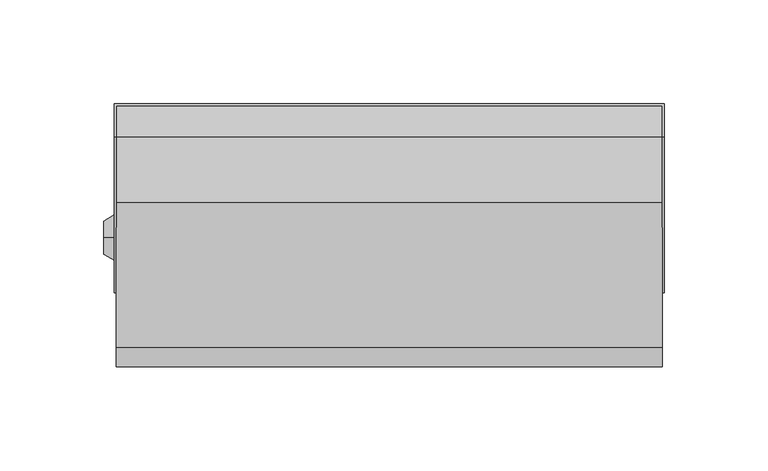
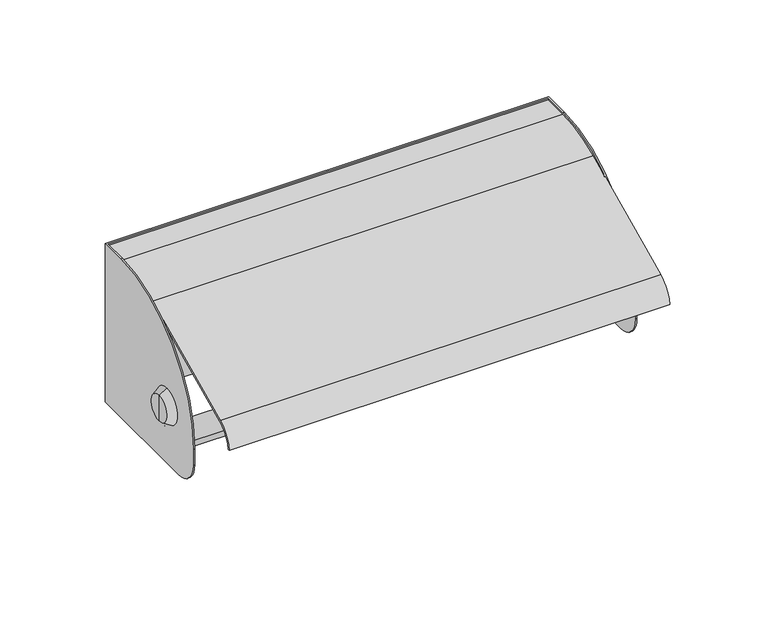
"""IFC4 building model written with IfcOpenShell, lengths in millimetres: proxy geometry, Toilet Roll Dispenser_Metlam_Double_Bar_Hooded : 265w x 91d x 100h (ML267)."""

from ifc_helpers import new_model, si_unit, frame, origin, place, context, project, spatial, polyline, circle_curve, source, transform, mapped, element, save
from ifc_brep_helpers import plane_surface, cylinder_surface, revolved_surface, advanced_brep


def specialty_equipment_0947d158(model_context):
    return source(origin(), model_context, "Body", "AdvancedBrep", [
        advanced_brep(
        [(-131.5, -91.0, 595.0), (-131.5, -91.0, 585.0), (-131.5, -76.0, 570.0), (-131.5, -1.0, 570.0), (-131.5, -1.0, 668.0), (-131.5, -16.0, 668.0), (-131.5, -47.085731, 661.0505664), (-131.5, -62.6525381, 653.7242769), (-131.5, -57.0, 585.0), (-131.5, -72.0, 585.0), (-131.5, -1.0, 670.0), (-131.5, -16.0, 670.0), (-131.5, -58.5560823, 656.7574276), (-131.5, -47.511563, 661.9553687), (-131.5, -16.0, 669.0), (-131.5, -1.0, 669.0), (-132.5, 0.0, 670.0), (-132.5, 0.0, 570.0), (-132.5, -76.0, 570.0), (-132.5, -91.0, 585.0), (-132.5, -91.0, 595.0), (-132.5, -16.0, 670.0), (131.5, -1.0, 670.0), (131.5, -16.0, 670.0), (132.5, -16.0, 670.0), (132.5, 0.0, 670.0), (132.5, 0.0, 570.0), (132.5, -76.0, 570.0), (131.5, -76.0, 570.0), (131.5, -1.0, 570.0), (131.5, -1.0, 669.0), (131.5, -1.0, 668.0), (132.5, -91.0, 595.0), (132.5, -91.0, 585.0), (131.5, -16.0, 669.0), (131.5, -47.511563, 661.9553687), (131.5, -58.5560823, 656.7574276), (131.5, -91.0, 585.0), (131.5, -91.0, 595.0), (131.5, -62.6525381, 653.7242769), (131.5, -47.085731, 661.0505664), (131.5, -16.0, 668.0), (131.5, -72.0, 585.0), (131.5, -57.0, 585.0), (131.5, -117.3969812, 629.0648209), (131.5, -126.6723192, 615.8182654), (131.5, -125.6764401, 615.7275749), (131.5, -116.9711493, 628.1600186), (-131.5, -116.9711493, 628.1600186), (-131.5, -125.6764401, 615.7275749), (-131.5, -126.6723192, 615.8182654), (-131.5, -117.3969812, 629.0648209)],
        [
            (0, 1),
            (1, 2, circle_curve(frame((-131.5, -76.0, 585.0), z_axis=(1.0, 0.0, 0.0), x_axis=(0.0, -1.0, 0.0)), 15.0)),
            (2, 3),
            (3, 4),
            (4, 5),
            (5, 6, circle_curve(frame((-131.5, -16.0, 595.0), z_axis=(1.0, 0.0, 0.0), x_axis=(0.0, 1.0, 0.0)), 73.0)),
            (6, 7),
            (7, 0, circle_curve(frame((-131.5, -16.0, 595.0), z_axis=(1.0, 0.0, 0.0), x_axis=(0.0, -1.0, 0.0)), 75.0)),
            (8, 9, circle_curve(frame((-131.5, -64.5, 585.0), z_axis=(-1.0, 0.0, 0.0), x_axis=(0.0, 1.0, 0.0)), 7.5)),
            (9, 8, circle_curve(frame((-131.5, -64.5, 585.0), z_axis=(-1.0, 0.0, 0.0), x_axis=(0.0, 1.0, 0.0)), 7.5)),
            (10, 11),
            (11, 12, circle_curve(frame((-131.5, -16.0, 595.0), z_axis=(1.0, 0.0, 0.0), x_axis=(0.0, -1.0, 0.0)), 75.0)),
            (12, 13),
            (13, 14, circle_curve(frame((-131.5, -16.0, 595.0), z_axis=(-1.0, 0.0, 0.0), x_axis=(0.0, 1.0, 0.0)), 74.0)),
            (14, 15),
            (15, 10),
            (16, 17),
            (17, 18),
            (18, 19, circle_curve(frame((-132.5, -76.0, 585.0), z_axis=(-1.0, 0.0, 0.0), x_axis=(0.0, -1.0, 0.0)), 15.0)),
            (19, 20),
            (20, 21, circle_curve(frame((-132.5, -16.0, 595.0), z_axis=(-1.0, 0.0, 0.0), x_axis=(0.0, -1.0, 0.0)), 75.0)),
            (21, 16),
            (21, 11),
            (10, 22),
            (22, 23),
            (23, 24),
            (24, 25),
            (25, 16),
            (25, 26),
            (26, 17),
            (2, 18),
            (26, 27),
            (27, 28),
            (28, 29),
            (29, 3),
            (1, 19),
            (0, 20),
            (7, 12, circle_curve(frame((-131.5, -16.0, 595.0), z_axis=(-1.0, 0.0, 0.0), x_axis=(0.0, -1.0, 0.0)), 75.0)),
            (15, 30),
            (30, 22),
            (29, 31),
            (31, 4),
            (24, 32, circle_curve(frame((132.5, -16.0, 595.0), z_axis=(1.0, 0.0, 0.0), x_axis=(0.0, -1.0, 0.0)), 75.0)),
            (32, 33),
            (33, 27, circle_curve(frame((132.5, -76.0, 585.0), z_axis=(1.0, 0.0, 0.0), x_axis=(0.0, -1.0, 0.0)), 15.0)),
            (30, 34),
            (34, 35, circle_curve(frame((131.5, -16.0, 595.0), z_axis=(1.0, 0.0, 0.0), x_axis=(0.0, 1.0, 0.0)), 74.0)),
            (35, 36),
            (36, 23, circle_curve(frame((131.5, -16.0, 595.0), z_axis=(-1.0, 0.0, 0.0), x_axis=(0.0, -1.0, 0.0)), 75.0)),
            (28, 37, circle_curve(frame((131.5, -76.0, 585.0), z_axis=(-1.0, 0.0, 0.0), x_axis=(0.0, -1.0, 0.0)), 15.0)),
            (37, 38),
            (38, 39, circle_curve(frame((131.5, -16.0, 595.0), z_axis=(-1.0, 0.0, 0.0), x_axis=(0.0, -1.0, 0.0)), 75.0)),
            (39, 40),
            (40, 41, circle_curve(frame((131.5, -16.0, 595.0), z_axis=(-1.0, 0.0, 0.0), x_axis=(0.0, 1.0, 0.0)), 73.0)),
            (41, 31),
            (42, 43, circle_curve(frame((131.5, -64.5, 585.0), z_axis=(1.0, 0.0, 0.0), x_axis=(0.0, 1.0, 0.0)), 7.5)),
            (43, 42, circle_curve(frame((131.5, -64.5, 585.0), z_axis=(1.0, 0.0, 0.0), x_axis=(0.0, 1.0, 0.0)), 7.5)),
            (33, 37),
            (32, 38),
            (36, 39, circle_curve(frame((131.5, -16.0, 595.0), z_axis=(1.0, 0.0, 0.0), x_axis=(0.0, -1.0, 0.0)), 75.0)),
            (42, 9),
            (8, 43),
            (44, 45, circle_curve(frame((131.5, -110.468195, 614.3426241), z_axis=(1.0, 0.0, 0.0), x_axis=(0.0, 1.0, 0.0)), 16.2711756)),
            (45, 46),
            (46, 47, circle_curve(frame((131.5, -110.468195, 614.3426241), z_axis=(-1.0, 0.0, 0.0), x_axis=(0.0, 1.0, 0.0)), 15.2711756)),
            (47, 39),
            (36, 44),
            (48, 49, circle_curve(frame((-131.5, -110.468195, 614.3426241), z_axis=(1.0, 0.0, 0.0), x_axis=(0.0, 1.0, 0.0)), 15.2711756)),
            (49, 50),
            (50, 51, circle_curve(frame((-131.5, -110.468195, 614.3426241), z_axis=(-1.0, 0.0, 0.0), x_axis=(0.0, 1.0, 0.0)), 16.2711756)),
            (51, 12),
            (7, 48),
            (14, 34),
            (13, 35),
            (51, 44),
            (50, 45),
            (49, 46),
            (48, 47),
            (6, 40),
            (5, 41),
        ],
        [
            plane_surface(frame((-131.5, 0.0, 670.0), z_axis=(1.0, 0.0, 0.0), x_axis=(0.0, -1.0, 0.0))),
            plane_surface(frame((-132.5, 0.0, 670.0), z_axis=(-1.0, 0.0, 0.0), x_axis=(0.0, 1.0, 0.0))),
            plane_surface(frame((-132.5, -16.0, 670.0), z_axis=(0.0, 0.0, 1.0), x_axis=(1.0, 0.0, 0.0))),
            plane_surface(frame((-132.5, 0.0, 670.0), z_axis=(0.0, 1.0, 0.0), x_axis=(1.0, 0.0, 0.0))),
            plane_surface(frame((-132.5, 0.0, 570.0), z_axis=(0.0, 0.0, -1.0), x_axis=(1.0, 0.0, 0.0))),
            cylinder_surface(frame((-131.5, -76.0, 585.0), z_axis=(-1.0, 0.0, 0.0), x_axis=(0.0, -1.0, 0.0)), 15.0),
            plane_surface(frame((-132.5, -91.0, 585.0), z_axis=(0.0, -1.0, 0.0), x_axis=(1.0, 0.0, 0.0))),
            cylinder_surface(frame((-131.5, -16.0, 595.0), z_axis=(-1.0, 0.0, 0.0), x_axis=(0.0, -1.0, 0.0)), 75.0),
            plane_surface(frame((-132.5, -1.0, 670.0), z_axis=(0.0, -1.0, 0.0), x_axis=(-1.0, 0.0, 0.0))),
            plane_surface(frame((132.5, -1.0, 570.0), z_axis=(1.0, 0.0, 0.0), x_axis=(0.0, 1.0, 0.0))),
            plane_surface(frame((131.5, 0.0, 670.0), z_axis=(-1.0, 0.0, 0.0), x_axis=(0.0, 1.0, 0.0))),
            cylinder_surface(frame((132.5, -76.0, 585.0), z_axis=(-1.0, 0.0, 0.0), x_axis=(0.0, -1.0, 0.0)), 15.0),
            plane_surface(frame((131.5, -91.0, 585.0), z_axis=(0.0, -1.0, 0.0), x_axis=(1.0, 0.0, 0.0))),
            cylinder_surface(frame((132.5, -16.0, 595.0), z_axis=(-1.0, 0.0, 0.0), x_axis=(0.0, -1.0, 0.0)), 75.0),
            cylinder_surface(frame((-132.5, -64.5, 585.0), z_axis=(1.0, 0.0, 0.0), x_axis=(0.0, 1.0, 0.0)), 7.5),
            plane_surface(frame((131.5, -16.0, 669.0), z_axis=(1.0, 0.0, 0.0), x_axis=(0.0, -1.0, 0.0))),
            plane_surface(frame((-131.5, -16.0, 669.0), z_axis=(-1.0, 0.0, 0.0), x_axis=(0.0, 1.0, 0.0))),
            plane_surface(frame((131.5, -1.0, 669.0), z_axis=(0.0, 0.0, 1.0), x_axis=(-1.0, 0.0, 0.0))),
            cylinder_surface(frame((-131.5, -16.0, 595.0), z_axis=(1.0, 0.0, 0.0), x_axis=(0.0, 1.0, 0.0)), 74.0),
            plane_surface(frame((131.5, -47.511563, 661.9553687), z_axis=(0.0, -0.42583193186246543, 0.9048022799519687), x_axis=(-1.0, 0.0, 0.0))),
            cylinder_surface(frame((-131.5, -110.468195, 614.3426241), z_axis=(1.0, 0.0, 0.0), x_axis=(0.0, 1.0, 0.0)), 16.2711756),
            plane_surface(frame((131.5, -126.6723192, 615.8182654), z_axis=(0.0, -0.0906905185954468, -0.9958791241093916), x_axis=(-1.0, 0.0, 0.0))),
            revolved_surface(polyline([(-131.5, -95.19701939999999, 614.3426241), (131.5, -95.19701939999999, 614.3426241)]), (-131.5, -110.468195, 614.3426241), (-1.0, 0.0, 0.0)),
            plane_surface(frame((131.5, -116.9711493, 628.1600186), z_axis=(0.0, 0.42583193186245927, -0.9048022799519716), x_axis=(-1.0, 0.0, 0.0))),
            revolved_surface(polyline([(-131.5, 57.0, 595.0), (131.5, 57.0, 595.0)]), (-131.5, -16.0, 595.0), (-1.0, 0.0, 0.0)),
            plane_surface(frame((131.5, -16.0, 668.0), z_axis=(0.0, 0.0, -1.0), x_axis=(-1.0, 0.0, 0.0))),
        ],
        [
            (0, [[1, 2, 3, 4, 5, 6, 7, 8], [9, 10]]),
            (0, [[11, 12, 13, 14, 15, 16]]),
            (1, [[17, 18, 19, 20, 21, 22]]),
            (2, [[23, -11, 24, 25, 26, 27, 28, -22]]),
            (3, [[-17, -28, 29, 30]]),
            (4, [[31, -18, -30, 32, 33, 34, 35, -3]]),
            (5, [[-2, 36, -19, -31]]),
            (6, [[-1, 37, -20, -36]]),
            (7, [[-21, -37, -8, 38, -12, -23]]),
            (8, [[-24, -16, 39, 40]]),
            (8, [[-35, 41, 42, -4]]),
            (9, [[-29, -27, 43, 44, 45, -32]]),
            (10, [[-25, -40, 46, 47, 48, 49]]),
            (10, [[50, 51, 52, 53, 54, 55, -41, -34], [56, 57]]),
            (11, [[-50, -33, -45, 58]]),
            (12, [[-51, -58, -44, 59]]),
            (13, [[-43, -26, -49, 60, -52, -59]]),
            (14, [[61, -9, 62, -56]]),
            (14, [[-61, -57, -62, -10]]),
            (15, [[63, 64, 65, 66, -60, 67]]),
            (16, [[68, 69, 70, 71, -38, 72]]),
            (17, [[73, -46, -39, -15]]),
            (18, [[-73, -14, 74, -47]]),
            (19, [[-74, -13, -71, 75, -67, -48]]),
            (20, [[-63, -75, -70, 76]]),
            (21, [[-64, -76, -69, 77]]),
            (22, [[-65, -77, -68, 78]]),
            (23, [[-78, -72, -7, 79, -53, -66]]),
            (24, [[-79, -6, 80, -54]]),
            (25, [[-80, -5, -42, -55]]),
        ],
    ),
        advanced_brep(
        [(-132.5, -64.5, 606.837118), (-132.5, -64.5, 617.837118), (-132.5, -64.5, 595.837118), (-137.5, -64.5, 598.837118), (-137.5, -64.5, 614.837118), (-137.5, -64.5, 606.837118)],
        [
            (0, 1),
            (1, 2, circle_curve(frame((-132.5, -64.5, 606.837118), z_axis=(1.0, 0.0, 0.0), x_axis=(0.0, 0.0, 1.0)), 11.0)),
            (2, 0),
            (2, 1, circle_curve(frame((-132.5, -64.5, 606.837118), z_axis=(1.0, 0.0, 0.0), x_axis=(0.0, 0.0, 1.0)), 11.0)),
            (3, 4, circle_curve(frame((-137.5, -64.5, 606.837118), z_axis=(-1.0, 0.0, 0.0), x_axis=(0.0, 0.0, 1.0)), 8.0)),
            (4, 5),
            (5, 3),
            (4, 3, circle_curve(frame((-137.5, -64.5, 606.837118), z_axis=(-1.0, 0.0, 0.0), x_axis=(0.0, 0.0, 1.0)), 8.0)),
            (1, 4),
            (3, 2),
        ],
        [
            plane_surface(frame((-132.5, -64.5, 606.837118), z_axis=(1.0, 0.0, 0.0), x_axis=(0.0, 0.0, 1.0))),
            plane_surface(frame((-137.5, -64.5, 606.837118), z_axis=(-1.0, 0.0, 0.0), x_axis=(0.0, 0.0, 1.0))),
            revolved_surface(polyline([(-137.5, -64.5, 614.837118), (-132.5, -64.5, 617.837118)]), (-170.7639141, -64.5, 606.837118), (1.0, 0.0, 0.0)),
        ],
        [
            (0, [[1, 2, 3]]),
            (0, [[-3, 4, -1]]),
            (1, [[5, 6, 7]]),
            (1, [[8, -7, -6]]),
            (2, [[-2, 9, -5, 10]]),
            (2, [[-4, -10, -8, -9]]),
        ],
    ),
    ])


if __name__ == "__main__":
    model = new_model("IFC4")
    model_context = context("Model", 3, world=origin())
    ifc_project = project(units=[si_unit("LENGTHUNIT", "METRE", prefix="MILLI")], contexts=[model_context])
    site = spatial("IfcSite", under=ifc_project)
    building = spatial("IfcBuilding", under=site)
    placement = place(None, origin())
    specialty_equipment_shape = specialty_equipment_0947d158(model_context)
    element("IfcBuildingElementProxy", 1, Name="Toilet Roll Dispenser_Metlam_Double_Bar_Hooded : 265w x 91d x 100h (ML267)", ObjectType="Toilet Roll Dispenser_Metlam_Double_Bar_Hooded : 265w x 91d x 100h (ML267)", at=placement, inside=building, context=model_context, shape_type="MappedRepresentation", body=[
        mapped(specialty_equipment_shape, transform((0.0, 0.0, 0.0), x_axis=(1.0, 0.0, 0.0), y_axis=(0.0, 1.0, 0.0), z_axis=(0.0, 0.0, 1.0))),
    ])
    save(model, "model.ifc")
